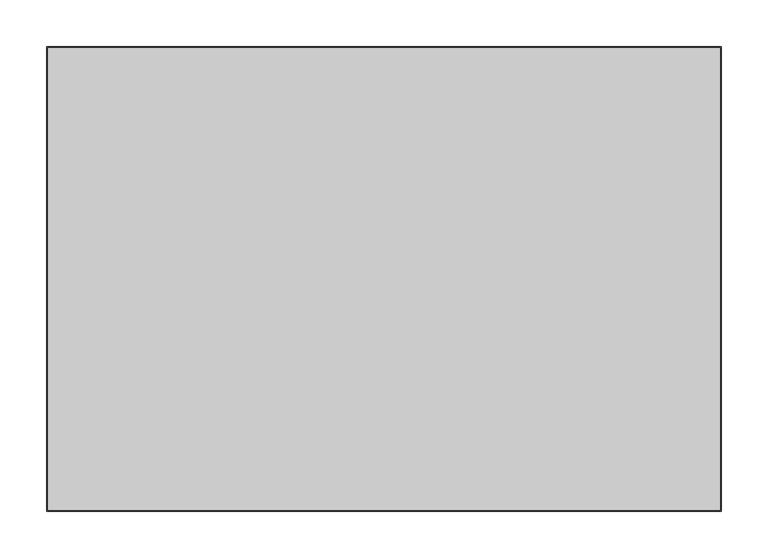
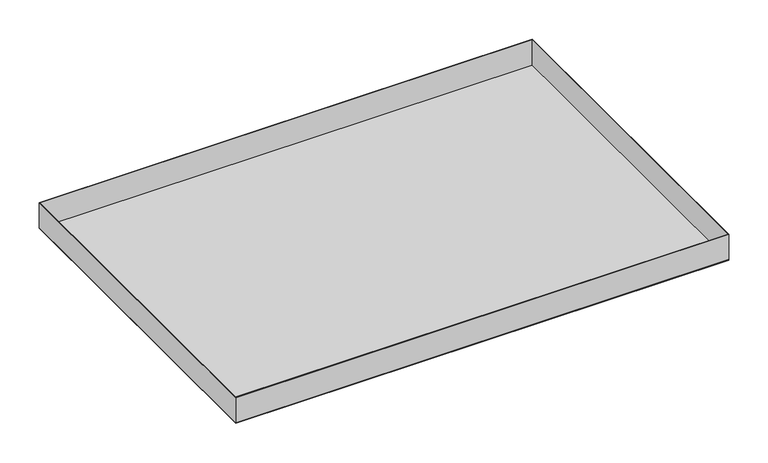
"""IFC4 building model written with IfcOpenShell, lengths in millimetres: proxy geometry, durlum_S5-150_RHOMBOS_panel : durlum_S5-150_RHOMBOS_panel_wall_corner."""

from ifc_helpers import new_model, si_unit, frame, origin, origin_with_axes, place, context, project, spatial, polyline, outline, extrude, source, transform, mapped, element, save


def generic_models_c5fd5fb8(model_context):
    return source(origin(), model_context, "Body", "SweptSolid", [
        extrude(outline(polyline([(362.25, 249.75), (362.25, -249.75), (-362.25, -249.75), (-362.25, 249.75), (362.25, 249.75)]), holes=[polyline([(361.25, 248.75), (-361.25, 248.75), (-361.25, -248.75), (361.25, -248.75), (361.25, 248.75)])]), frame((0.0, 0.0, 1.0), z_axis=(0.0, 0.0, 1.0), x_axis=(1.0, 0.0, 0.0)), (0.0, 0.0, 1.0), 39.0),
        extrude(outline(polyline([(362.25, 249.75), (362.25, -249.75), (-362.25, -249.75), (-362.25, 249.75), (362.25, 249.75)])), origin_with_axes(), (0.0, 0.0, 1.0), 1.0),
    ])


if __name__ == "__main__":
    model = new_model("IFC4")
    model_context = context("Model", 3, world=origin())
    ifc_project = project(units=[si_unit("LENGTHUNIT", "METRE", prefix="MILLI")], contexts=[model_context])
    site = spatial("IfcSite", under=ifc_project)
    building = spatial("IfcBuilding", under=site)
    placement = place(None, origin())
    generic_models_shape = generic_models_c5fd5fb8(model_context)
    element("IfcBuildingElementProxy", 1, Name="durlum_S5-150_RHOMBOS_panel : durlum_S5-150_RHOMBOS_panel_wall_corner", ObjectType="durlum_S5-150_RHOMBOS_panel : durlum_S5-150_RHOMBOS_panel_wall_corner", at=placement, inside=building, context=model_context, shape_type="MappedRepresentation", body=[
        mapped(generic_models_shape, transform((0.0, 0.0, 0.0), x_axis=(1.0, 0.0, 0.0), y_axis=(0.0, 1.0, 0.0), z_axis=(0.0, 0.0, 1.0))),
    ])
    save(model, "model.ifc")
